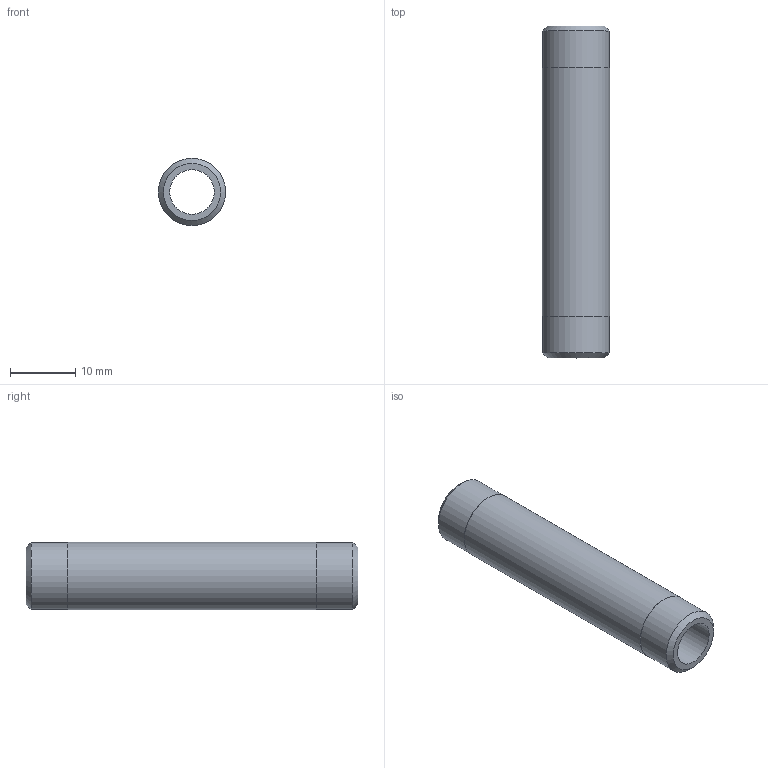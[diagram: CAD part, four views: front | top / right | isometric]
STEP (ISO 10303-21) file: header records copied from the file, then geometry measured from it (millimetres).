
FILE_DESCRIPTION(/* description */ (''),/* implementation_level */ '2;1');
FILE_NAME(/* name */ 'C:/Users/drich/Desktop/SSPN18-2 v1.step',/* time_stamp */ '2020-01-04T13:31:15-06:00',/* author */ (''),/* organization */ (''),/* preprocessor_version */ 'ST-DEVELOPER v18',/* originating_system */ 'Autodesk Translation Framework v8.12.0.6',/* authorisation */ '');
FILE_SCHEMA (('AUTOMOTIVE_DESIGN { 1 0 10303 214 3 1 1 }'));
Length unit declared in the file: inch
Products named in the file (1): SSPN18-2
Bounding box: 10.31 x 50.8 x 10.31 mm (x, y, z)
Volume: 2352.2 mm3; surface area: 2797.6 mm2
Topology: 1 solids, 1 shells, 10 faces, 24 edges, 18 vertices
Faces by surface type: cylinder 4, plane 4, cone 2
Full cylindrical faces by diameter (mm): 6.833 x1, 10.262 x2, 10.312 x1
Entity records: 353 total; most frequent: DIRECTION 64, CARTESIAN_POINT 53, ORIENTED_EDGE 48, AXIS2_PLACEMENT_3D 29, EDGE_CURVE 24, CIRCLE 18, VERTEX_POINT 18, EDGE_LOOP 14
